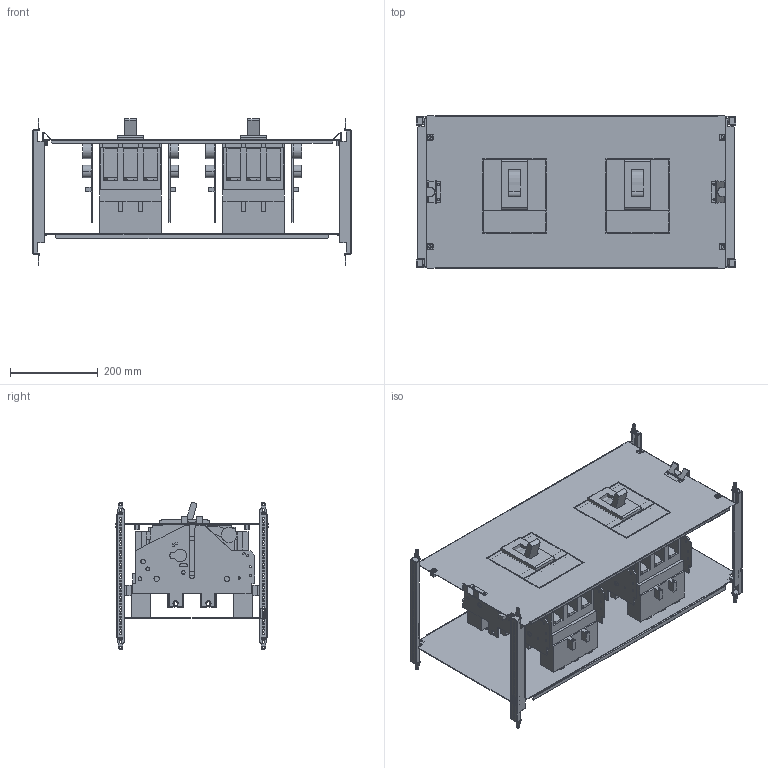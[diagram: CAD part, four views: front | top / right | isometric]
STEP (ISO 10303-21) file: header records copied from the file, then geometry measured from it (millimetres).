
FILE_DESCRIPTION(('CAx-IF Rec.Pracs.---Model Styling and Organization---1.2---2011-12-15','CAx-IF Rec.Pracs.---Geometric and Assembly Validation Properties---4.1---2014-06-16','CAx-IF Rec.Pracs.---PMI Polyline Presentation---2.0---2013-05-24'),'2;1');
FILE_NAME('R5PKIB7V81516.stp','2021-07-29T03:19:17+03:00',(''),(''),'STEP Interface 4.4 by CT CoreTechnologie','3D_Evolution4.4 by CT CoreTechnologie','');
FILE_SCHEMA(('AUTOMOTIVE_DESIGN { 1 0 10303 214 1 1 1 1 }'));
Length unit declared in the file: millimetre
Products named in the file (1): R5PKIB7V81516
Bounding box: 726 x 348 x 335 mm (x, y, z)
Surface area: 2362742.3 mm2 (no closed solid volume)
Topology: 0 solids, 86 shells, 2804 faces, 8042 edges, 5422 vertices
Faces by surface type: plane 1776, cylinder 910, bspline 118
Entity records: 93838 total; most frequent: CARTESIAN_POINT 17755, ORIENTED_EDGE 15968, DIRECTION 15382, EDGE_CURVE 8002, VECTOR 5956, LINE 5956, VERTEX_POINT 5426, AXIS2_PLACEMENT_3D 4713
